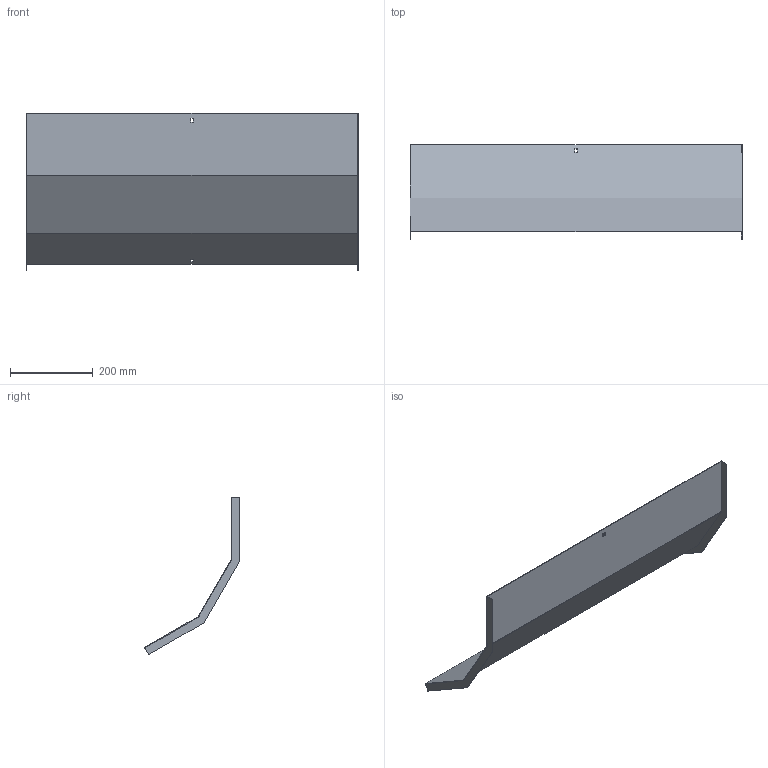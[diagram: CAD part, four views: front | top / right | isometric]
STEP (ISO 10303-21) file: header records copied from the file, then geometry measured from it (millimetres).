
FILE_DESCRIPTION (( 'STEP AP214' ), '1' );
FILE_NAME ('A2X40N3R800X.step', '2025-04-02T08:35:25', ( '' ), ( '' ), 'SwSTEP 2.0', 'SolidWorks 2023', '' );
FILE_SCHEMA (( 'AUTOMOTIVE_DESIGN' ));
Length unit declared in the file: millimetre
Products named in the file (1): A2X40N3R800X
Bounding box: 803 x 229.74 x 380.61 mm (x, y, z)
Volume: 580528.2 mm3; surface area: 778091.3 mm2
Topology: 1 solids, 1 shells, 26 faces, 72 edges, 48 vertices
Faces by surface type: plane 26
Entity records: 847 total; most frequent: CARTESIAN_POINT 147, ORIENTED_EDGE 144, DIRECTION 126, LINE 72, EDGE_CURVE 72, VECTOR 72, VERTEX_POINT 48, EDGE_LOOP 30
